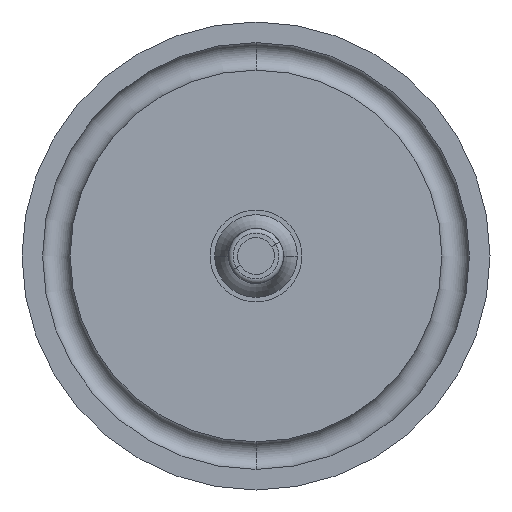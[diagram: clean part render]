
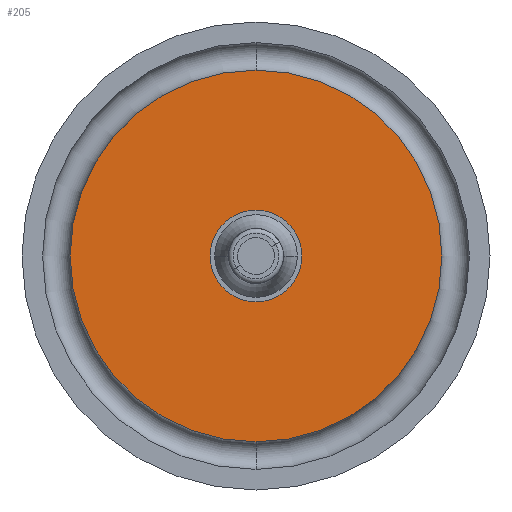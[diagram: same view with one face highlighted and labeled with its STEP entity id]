
A CAD part, front view. The second image highlights one B-rep face of the part: STEP entity #205.
In plain terms, the highlighted planar face has unit normal (0, -1, 0).
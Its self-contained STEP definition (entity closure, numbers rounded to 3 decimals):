
#35 = DIRECTION ( 'NONE',  ( 0., 1., 0. ) ) ;
#158 = CARTESIAN_POINT ( 'NONE',  ( 0., 0., 0. ) ) ;
#205 = ADVANCED_FACE ( 'NONE', ( #2126, #352 ), #1618, .F. ) ;
#239 = ORIENTED_EDGE ( 'NONE', *, *, #2166, .F. ) ;
#246 = AXIS2_PLACEMENT_3D ( 'NONE', #1691, #3772, #2853 ) ;
#352 = FACE_BOUND ( 'NONE', #1354, .T. ) ;
#506 = CARTESIAN_POINT ( 'NONE',  ( 0., 0., 0. ) ) ;
#589 = CARTESIAN_POINT ( 'NONE',  ( 0., 0., 5. ) ) ;
#1077 = CARTESIAN_POINT ( 'NONE',  ( 0., 0., 0. ) ) ;
#1223 = AXIS2_PLACEMENT_3D ( 'NONE', #506, #35, #1786 ) ;
#1288 = CARTESIAN_POINT ( 'NONE',  ( 5., 0., 0. ) ) ;
#1354 = EDGE_LOOP ( 'NONE', ( #5509, #4694 ) ) ;
#1454 = CARTESIAN_POINT ( 'NONE',  ( 0., 0., -20.25 ) ) ;
#1598 = CARTESIAN_POINT ( 'NONE',  ( 0., 0., 20.25 ) ) ;
#1618 = PLANE ( 'NONE',  #2606 ) ;
#1631 = VERTEX_POINT ( 'NONE', #589 ) ;
#1667 = CIRCLE ( 'NONE', #4398, 20.25 ) ;
#1691 = CARTESIAN_POINT ( 'NONE',  ( 0., 0., 0. ) ) ;
#1786 = DIRECTION ( 'NONE',  ( 0., 0., 1. ) ) ;
#1877 = DIRECTION ( 'NONE',  ( 0., 1., 0. ) ) ;
#2126 = FACE_OUTER_BOUND ( 'NONE', #5632, .T. ) ;
#2166 = EDGE_CURVE ( 'NONE', #3312, #4357, #5032, .T. ) ;
#2238 = EDGE_CURVE ( 'NONE', #4357, #3312, #1667, .T. ) ;
#2454 = ORIENTED_EDGE ( 'NONE', *, *, #2238, .F. ) ;
#2606 = AXIS2_PLACEMENT_3D ( 'NONE', #1288, #3410, #5586 ) ;
#2638 = EDGE_CURVE ( 'NONE', #1631, #3388, #2701, .T. ) ;
#2643 = CARTESIAN_POINT ( 'NONE',  ( 0., 0., -5. ) ) ;
#2701 = CIRCLE ( 'NONE', #246, 5. ) ;
#2853 = DIRECTION ( 'NONE',  ( 0., 0., 1. ) ) ;
#3176 = DIRECTION ( 'NONE',  ( 0., 0., 1. ) ) ;
#3312 = VERTEX_POINT ( 'NONE', #1598 ) ;
#3388 = VERTEX_POINT ( 'NONE', #2643 ) ;
#3410 = DIRECTION ( 'NONE',  ( 0., 1., 0. ) ) ;
#3772 = DIRECTION ( 'NONE',  ( 0., 1., 0. ) ) ;
#4357 = VERTEX_POINT ( 'NONE', #1454 ) ;
#4398 = AXIS2_PLACEMENT_3D ( 'NONE', #158, #1877, #3176 ) ;
#4576 = DIRECTION ( 'NONE',  ( 0., 1., 0. ) ) ;
#4606 = DIRECTION ( 'NONE',  ( 0., 0., 1. ) ) ;
#4694 = ORIENTED_EDGE ( 'NONE', *, *, #5446, .T. ) ;
#4849 = AXIS2_PLACEMENT_3D ( 'NONE', #1077, #4576, #4606 ) ;
#4967 = CIRCLE ( 'NONE', #1223, 5. ) ;
#5032 = CIRCLE ( 'NONE', #4849, 20.25 ) ;
#5446 = EDGE_CURVE ( 'NONE', #3388, #1631, #4967, .T. ) ;
#5509 = ORIENTED_EDGE ( 'NONE', *, *, #2638, .T. ) ;
#5586 = DIRECTION ( 'NONE',  ( 0., 0., 1. ) ) ;
#5632 = EDGE_LOOP ( 'NONE', ( #239, #2454 ) ) ;
